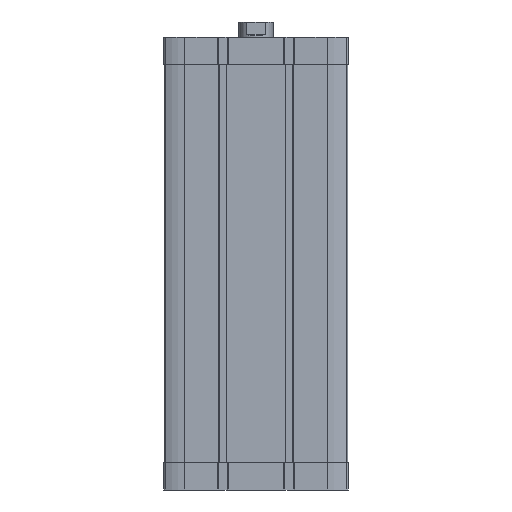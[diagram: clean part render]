
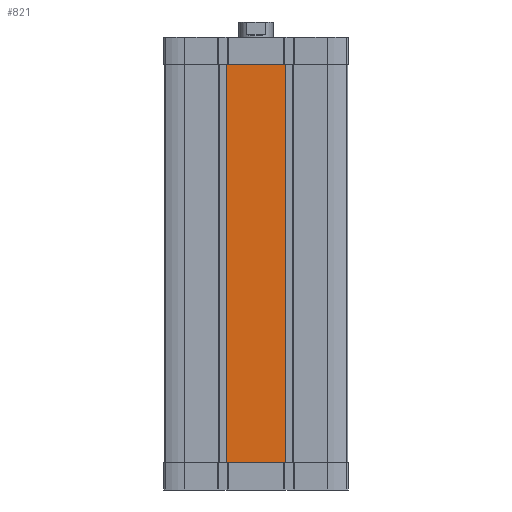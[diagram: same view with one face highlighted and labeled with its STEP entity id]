
A CAD part, front view. The second image highlights one B-rep face of the part: STEP entity #821.
In plain terms, the highlighted planar face has unit normal (0, -1, 0).
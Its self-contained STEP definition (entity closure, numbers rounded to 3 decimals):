
#55 = VERTEX_POINT ( 'NONE', #10542 ) ;
#68 = LINE ( 'NONE', #10846, #14689 ) ;
#203 = LINE ( 'NONE', #6722, #16200 ) ;
#508 = LINE ( 'NONE', #8423, #9228 ) ;
#658 = LINE ( 'NONE', #4651, #12442 ) ;
#821 = ADVANCED_FACE ( 'NONE', ( #7801 ), #10499, .T. ) ;
#857 = CARTESIAN_POINT ( 'NONE',  ( -20.687, -67., -311. ) ) ;
#1000 = VECTOR ( 'NONE', #3952, 1000. ) ;
#1345 = LINE ( 'NONE', #5247, #6743 ) ;
#1529 = EDGE_CURVE ( 'NONE', #2286, #9691, #13220, .T. ) ;
#1626 = EDGE_CURVE ( 'NONE', #3819, #16134, #508, .T. ) ;
#2286 = VERTEX_POINT ( 'NONE', #11276 ) ;
#2402 = CARTESIAN_POINT ( 'NONE',  ( 21.3, -67., -20. ) ) ;
#2405 = EDGE_CURVE ( 'NONE', #9691, #55, #11705, .T. ) ;
#2971 = ORIENTED_EDGE ( 'NONE', *, *, #1626, .T. ) ;
#3265 = ORIENTED_EDGE ( 'NONE', *, *, #10354, .F. ) ;
#3380 = LINE ( 'NONE', #7282, #14615 ) ;
#3819 = VERTEX_POINT ( 'NONE', #10570 ) ;
#3868 = ORIENTED_EDGE ( 'NONE', *, *, #1529, .F. ) ;
#3952 = DIRECTION ( 'NONE',  ( 1., 0., 0. ) ) ;
#3953 = DIRECTION ( 'NONE',  ( 1., 0., 0. ) ) ;
#4056 = CARTESIAN_POINT ( 'NONE',  ( -67., -67., -311. ) ) ;
#4607 = ORIENTED_EDGE ( 'NONE', *, *, #8234, .T. ) ;
#4651 = CARTESIAN_POINT ( 'NONE',  ( -21.3, -67., -311. ) ) ;
#4757 = DIRECTION ( 'NONE',  ( 1., 0., 0. ) ) ;
#5247 = CARTESIAN_POINT ( 'NONE',  ( -67., -67., -311. ) ) ;
#5281 = ORIENTED_EDGE ( 'NONE', *, *, #10305, .T. ) ;
#5716 = DIRECTION ( 'NONE',  ( 0., 0., 1. ) ) ;
#6131 = DIRECTION ( 'NONE',  ( 1., 0., 0. ) ) ;
#6722 = CARTESIAN_POINT ( 'NONE',  ( -67., -67., -20. ) ) ;
#6743 = VECTOR ( 'NONE', #12043, 1000. ) ;
#7282 = CARTESIAN_POINT ( 'NONE',  ( -21.3, -67., -20. ) ) ;
#7709 = AXIS2_PLACEMENT_3D ( 'NONE', #4056, #10663, #15964 ) ;
#7801 = FACE_OUTER_BOUND ( 'NONE', #16777, .T. ) ;
#8234 = EDGE_CURVE ( 'NONE', #11268, #13882, #658, .T. ) ;
#8423 = CARTESIAN_POINT ( 'NONE',  ( 21.3, -67., -311. ) ) ;
#8819 = CARTESIAN_POINT ( 'NONE',  ( -21.3, -67., -20. ) ) ;
#9228 = VECTOR ( 'NONE', #5716, 1000. ) ;
#9691 = VERTEX_POINT ( 'NONE', #8819 ) ;
#10305 = EDGE_CURVE ( 'NONE', #2286, #11268, #1345, .T. ) ;
#10354 = EDGE_CURVE ( 'NONE', #11567, #16134, #203, .T. ) ;
#10499 = PLANE ( 'NONE',  #7709 ) ;
#10542 = CARTESIAN_POINT ( 'NONE',  ( -20.687, -67., -20. ) ) ;
#10570 = CARTESIAN_POINT ( 'NONE',  ( 21.3, -67., -311. ) ) ;
#10607 = DIRECTION ( 'NONE',  ( 0., 0., 1. ) ) ;
#10663 = DIRECTION ( 'NONE',  ( 0., -1., 0. ) ) ;
#10846 = CARTESIAN_POINT ( 'NONE',  ( -67., -67., -311. ) ) ;
#10978 = CARTESIAN_POINT ( 'NONE',  ( 20.687, -67., -311. ) ) ;
#11268 = VERTEX_POINT ( 'NONE', #857 ) ;
#11276 = CARTESIAN_POINT ( 'NONE',  ( -21.3, -67., -311. ) ) ;
#11567 = VERTEX_POINT ( 'NONE', #12409 ) ;
#11675 = VECTOR ( 'NONE', #10607, 1000. ) ;
#11705 = LINE ( 'NONE', #11963, #1000 ) ;
#11963 = CARTESIAN_POINT ( 'NONE',  ( -67., -67., -20. ) ) ;
#12043 = DIRECTION ( 'NONE',  ( 1., 0., 0. ) ) ;
#12409 = CARTESIAN_POINT ( 'NONE',  ( 20.687, -67., -20. ) ) ;
#12442 = VECTOR ( 'NONE', #6131, 1000. ) ;
#13220 = LINE ( 'NONE', #13466, #11675 ) ;
#13290 = ORIENTED_EDGE ( 'NONE', *, *, #2405, .F. ) ;
#13466 = CARTESIAN_POINT ( 'NONE',  ( -21.3, -67., -311. ) ) ;
#13882 = VERTEX_POINT ( 'NONE', #10978 ) ;
#14589 = EDGE_CURVE ( 'NONE', #13882, #3819, #68, .T. ) ;
#14615 = VECTOR ( 'NONE', #4757, 1000. ) ;
#14689 = VECTOR ( 'NONE', #15978, 1000. ) ;
#15928 = ORIENTED_EDGE ( 'NONE', *, *, #14589, .T. ) ;
#15964 = DIRECTION ( 'NONE',  ( 0., 0., -1. ) ) ;
#15978 = DIRECTION ( 'NONE',  ( 1., 0., 0. ) ) ;
#16134 = VERTEX_POINT ( 'NONE', #2402 ) ;
#16200 = VECTOR ( 'NONE', #3953, 1000. ) ;
#16559 = ORIENTED_EDGE ( 'NONE', *, *, #17173, .F. ) ;
#16777 = EDGE_LOOP ( 'NONE', ( #3868, #5281, #4607, #15928, #2971, #3265, #16559, #13290 ) ) ;
#17173 = EDGE_CURVE ( 'NONE', #55, #11567, #3380, .T. ) ;
